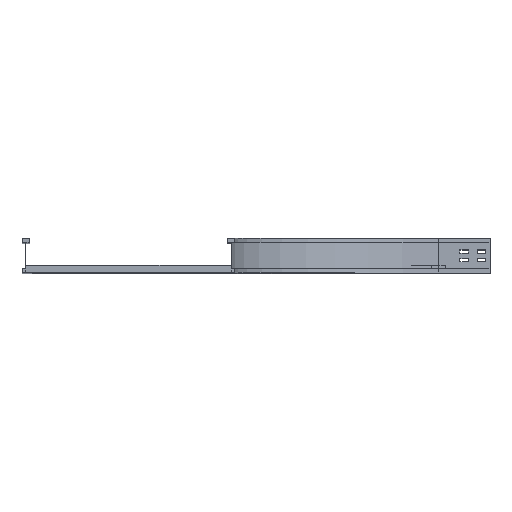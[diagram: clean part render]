
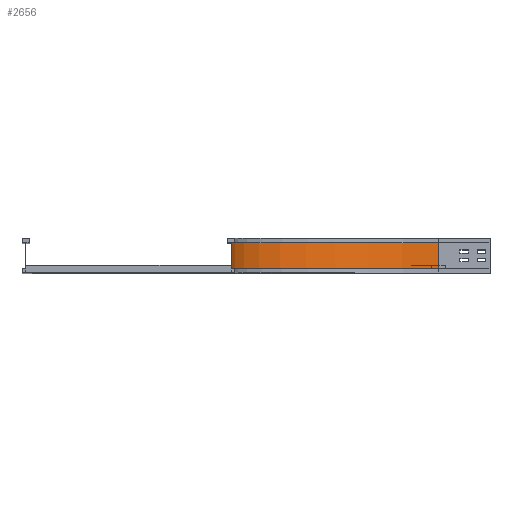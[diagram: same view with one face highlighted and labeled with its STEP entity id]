
A CAD part, top view. The second image highlights one B-rep face of the part: STEP entity #2656.
In plain terms, the highlighted cylindrical face has radius 600 mm (diameter 1200 mm), a partial arc.
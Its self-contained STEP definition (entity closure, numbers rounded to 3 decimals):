
#28 = CARTESIAN_POINT ( 'NONE',  ( 591., 12., -750. ) ) ;
#47 = LINE ( 'NONE', #28, #1373 ) ;
#70 = VERTEX_POINT ( 'NONE', #1000 ) ;
#73 = DIRECTION ( 'NONE',  ( 0., 0., -1. ) ) ;
#356 = CARTESIAN_POINT ( 'NONE',  ( 591., 88., -150. ) ) ;
#402 = ORIENTED_EDGE ( 'NONE', *, *, #2786, .T. ) ;
#403 = DIRECTION ( 'NONE',  ( 0., -1., 0. ) ) ;
#817 = LINE ( 'NONE', #2653, #2006 ) ;
#996 = DIRECTION ( 'NONE',  ( -1., 0., 0. ) ) ;
#1000 = CARTESIAN_POINT ( 'NONE',  ( 591., 12., -750. ) ) ;
#1118 = VERTEX_POINT ( 'NONE', #2679 ) ;
#1163 = FACE_OUTER_BOUND ( 'NONE', #2566, .T. ) ;
#1288 = AXIS2_PLACEMENT_3D ( 'NONE', #4136, #2587, #73 ) ;
#1373 = VECTOR ( 'NONE', #2210, 1000. ) ;
#1512 = AXIS2_PLACEMENT_3D ( 'NONE', #356, #403, #4345 ) ;
#1570 = CYLINDRICAL_SURFACE ( 'NONE', #1288, 600. ) ;
#1574 = VERTEX_POINT ( 'NONE', #4512 ) ;
#2006 = VECTOR ( 'NONE', #2955, 1000. ) ;
#2090 = DIRECTION ( 'NONE',  ( 0., -1., 0. ) ) ;
#2210 = DIRECTION ( 'NONE',  ( 0., 1., 0. ) ) ;
#2321 = EDGE_CURVE ( 'NONE', #3634, #1574, #817, .T. ) ;
#2343 = CIRCLE ( 'NONE', #2891, 600. ) ;
#2566 = EDGE_LOOP ( 'NONE', ( #3370, #3656, #402, #4276 ) ) ;
#2587 = DIRECTION ( 'NONE',  ( 0., -1., 0. ) ) ;
#2653 = CARTESIAN_POINT ( 'NONE',  ( -9., 12., -150. ) ) ;
#2656 = ADVANCED_FACE ( 'NONE', ( #1163 ), #1570, .F. ) ;
#2679 = CARTESIAN_POINT ( 'NONE',  ( 591., 88., -750. ) ) ;
#2786 = EDGE_CURVE ( 'NONE', #3634, #70, #2343, .T. ) ;
#2834 = CARTESIAN_POINT ( 'NONE',  ( -9., 12., -150. ) ) ;
#2891 = AXIS2_PLACEMENT_3D ( 'NONE', #3810, #2090, #996 ) ;
#2955 = DIRECTION ( 'NONE',  ( 0., 1., 0. ) ) ;
#3285 = CIRCLE ( 'NONE', #1512, 600. ) ;
#3342 = EDGE_CURVE ( 'NONE', #70, #1118, #47, .T. ) ;
#3370 = ORIENTED_EDGE ( 'NONE', *, *, #3732, .F. ) ;
#3634 = VERTEX_POINT ( 'NONE', #2834 ) ;
#3656 = ORIENTED_EDGE ( 'NONE', *, *, #2321, .F. ) ;
#3732 = EDGE_CURVE ( 'NONE', #1574, #1118, #3285, .T. ) ;
#3810 = CARTESIAN_POINT ( 'NONE',  ( 591., 12., -150. ) ) ;
#4136 = CARTESIAN_POINT ( 'NONE',  ( 591., 0., -150. ) ) ;
#4276 = ORIENTED_EDGE ( 'NONE', *, *, #3342, .T. ) ;
#4345 = DIRECTION ( 'NONE',  ( -1., 0., 0. ) ) ;
#4512 = CARTESIAN_POINT ( 'NONE',  ( -9., 88., -150. ) ) ;
